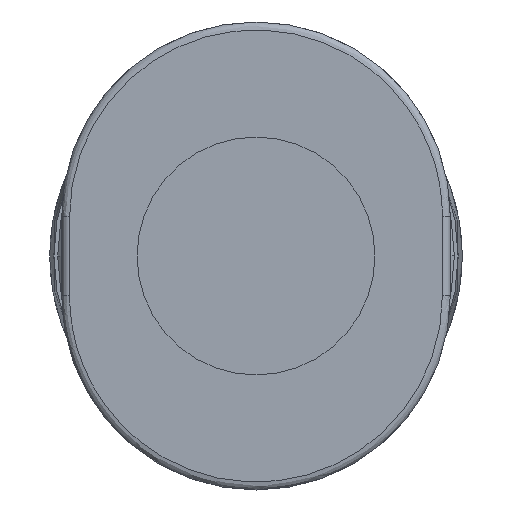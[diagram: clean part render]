
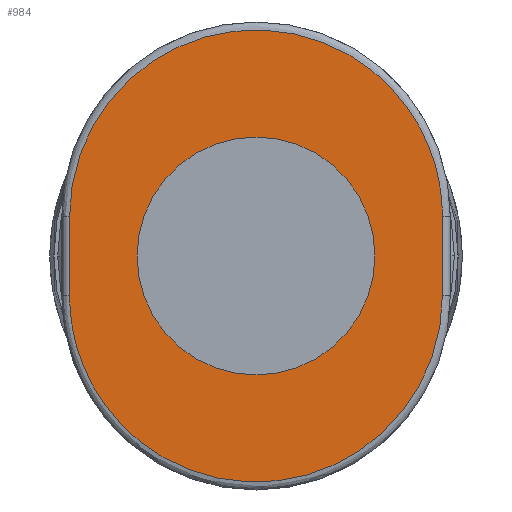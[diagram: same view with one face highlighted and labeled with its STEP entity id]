
A CAD part, left-side view. The second image highlights one B-rep face of the part: STEP entity #984.
In plain terms, the highlighted planar face has unit normal (-1, 0, 0).
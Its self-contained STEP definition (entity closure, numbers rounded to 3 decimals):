
#3 = VERTEX_POINT ( 'NONE', #1302 ) ;
#17 = PLANE ( 'NONE',  #523 ) ;
#32 = EDGE_CURVE ( 'NONE', #1715, #1540, #1724, .T. ) ;
#98 = ORIENTED_EDGE ( 'NONE', *, *, #32, .T. ) ;
#100 = ORIENTED_EDGE ( 'NONE', *, *, #402, .F. ) ;
#174 = CARTESIAN_POINT ( 'NONE',  ( -12.2, 0., 3. ) ) ;
#238 =( BOUNDED_CURVE ( )  B_SPLINE_CURVE ( 3, ( #778, #792, #798, #805 ),
 .UNSPECIFIED., .F., .T. ) 
 B_SPLINE_CURVE_WITH_KNOTS ( ( 4, 4 ),
 ( 0., 1. ),
 .UNSPECIFIED. ) 
 CURVE ( )  GEOMETRIC_REPRESENTATION_ITEM ( )  RATIONAL_B_SPLINE_CURVE ( ( 1., 0.333, 0.333, 1. ) ) 
 REPRESENTATION_ITEM ( '' )  );
#249 = ORIENTED_EDGE ( 'NONE', *, *, #1160, .F. ) ;
#281 = VERTEX_POINT ( 'NONE', #660 ) ;
#402 = EDGE_CURVE ( 'NONE', #281, #3, #238, .T. ) ;
#523 = AXIS2_PLACEMENT_3D ( 'NONE', #1112, #1299, #1183 ) ;
#542 = EDGE_CURVE ( 'NONE', #1540, #1715, #819, .T. ) ;
#587 = FACE_BOUND ( 'NONE', #1407, .T. ) ;
#605 = VECTOR ( 'NONE', #870, 1000. ) ;
#613 = EDGE_LOOP ( 'NONE', ( #100, #249, #1697, #1570 ) ) ;
#660 = CARTESIAN_POINT ( 'NONE',  ( -12.2, -4.7, -1. ) ) ;
#778 = CARTESIAN_POINT ( 'NONE',  ( -12.2, -4.7, -1. ) ) ;
#792 = CARTESIAN_POINT ( 'NONE',  ( -12.2, -4.7, -10.4 ) ) ;
#794 = AXIS2_PLACEMENT_3D ( 'NONE', #1258, #1254, #1251 ) ;
#798 = CARTESIAN_POINT ( 'NONE',  ( -12.2, 4.7, -10.4 ) ) ;
#805 = CARTESIAN_POINT ( 'NONE',  ( -12.2, 4.7, -1. ) ) ;
#819 = CIRCLE ( 'NONE', #1577, 3. ) ;
#870 = DIRECTION ( 'NONE',  ( 0., 0., 1. ) ) ;
#984 = ADVANCED_FACE ( '30', ( #587, #994 ), #17, .T. ) ;
#994 = FACE_OUTER_BOUND ( 'NONE', #613, .T. ) ;
#1005 =( BOUNDED_CURVE ( )  B_SPLINE_CURVE ( 3, ( #1524, #1508, #1501, #1555 ),
 .UNSPECIFIED., .F., .F. ) 
 B_SPLINE_CURVE_WITH_KNOTS ( ( 4, 4 ),
 ( 0., 1. ),
 .UNSPECIFIED. ) 
 CURVE ( )  GEOMETRIC_REPRESENTATION_ITEM ( )  RATIONAL_B_SPLINE_CURVE ( ( 1., 0.333, 0.333, 1. ) ) 
 REPRESENTATION_ITEM ( '' )  );
#1041 = CARTESIAN_POINT ( 'NONE',  ( -12.2, 0., -3. ) ) ;
#1051 = DIRECTION ( 'NONE',  ( 0., 0., 1. ) ) ;
#1112 = CARTESIAN_POINT ( 'NONE',  ( -12.2, -5.2, -6.2 ) ) ;
#1138 = EDGE_CURVE ( 'NONE', #1404, #1489, #1005, .T. ) ;
#1160 = EDGE_CURVE ( 'NONE', #1489, #281, #1850, .T. ) ;
#1183 = DIRECTION ( 'NONE',  ( 0., 0., 1. ) ) ;
#1217 = CARTESIAN_POINT ( 'NONE',  ( -12.2, -4.7, 1. ) ) ;
#1251 = DIRECTION ( 'NONE',  ( 0., 0., 1. ) ) ;
#1254 = DIRECTION ( 'NONE',  ( 1., 0., 0. ) ) ;
#1258 = CARTESIAN_POINT ( 'NONE',  ( -12.2, 0., 0. ) ) ;
#1283 = CARTESIAN_POINT ( 'NONE',  ( -12.2, 4.7, -1. ) ) ;
#1299 = DIRECTION ( 'NONE',  ( -1., 0., 0. ) ) ;
#1302 = CARTESIAN_POINT ( 'NONE',  ( -12.2, 4.7, -1. ) ) ;
#1404 = VERTEX_POINT ( 'NONE', #1628 ) ;
#1407 = EDGE_LOOP ( 'NONE', ( #1667, #98 ) ) ;
#1430 = LINE ( 'NONE', #1283, #605 ) ;
#1489 = VERTEX_POINT ( 'NONE', #1217 ) ;
#1497 = VECTOR ( 'NONE', #1839, 1000. ) ;
#1501 = CARTESIAN_POINT ( 'NONE',  ( -12.2, -4.7, 10.4 ) ) ;
#1508 = CARTESIAN_POINT ( 'NONE',  ( -12.2, 4.7, 10.4 ) ) ;
#1524 = CARTESIAN_POINT ( 'NONE',  ( -12.2, 4.7, 1. ) ) ;
#1540 = VERTEX_POINT ( 'NONE', #174 ) ;
#1555 = CARTESIAN_POINT ( 'NONE',  ( -12.2, -4.7, 1. ) ) ;
#1570 = ORIENTED_EDGE ( 'NONE', *, *, #1728, .F. ) ;
#1577 = AXIS2_PLACEMENT_3D ( 'NONE', #1683, #1689, #1051 ) ;
#1628 = CARTESIAN_POINT ( 'NONE',  ( -12.2, 4.7, 1. ) ) ;
#1667 = ORIENTED_EDGE ( 'NONE', *, *, #542, .T. ) ;
#1679 = CARTESIAN_POINT ( 'NONE',  ( -12.2, -4.7, 1. ) ) ;
#1683 = CARTESIAN_POINT ( 'NONE',  ( -12.2, 0., 0. ) ) ;
#1689 = DIRECTION ( 'NONE',  ( 1., 0., 0. ) ) ;
#1697 = ORIENTED_EDGE ( 'NONE', *, *, #1138, .F. ) ;
#1715 = VERTEX_POINT ( 'NONE', #1041 ) ;
#1724 = CIRCLE ( 'NONE', #794, 3. ) ;
#1728 = EDGE_CURVE ( 'NONE', #3, #1404, #1430, .T. ) ;
#1839 = DIRECTION ( 'NONE',  ( 0., 0., -1. ) ) ;
#1850 = LINE ( 'NONE', #1679, #1497 ) ;
